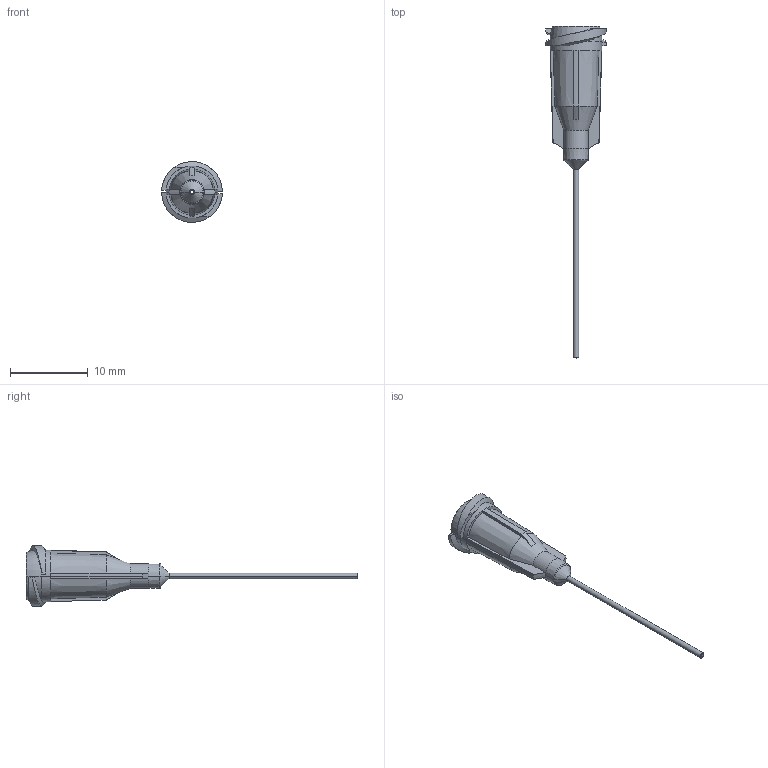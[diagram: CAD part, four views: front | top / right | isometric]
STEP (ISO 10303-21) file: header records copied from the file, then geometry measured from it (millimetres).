
FILE_DESCRIPTION (( 'STEP AP214' ), '1' );
FILE_NAME ('NORDSONEFD-7018262 TIP 22GA GP 016 X 10 BL.STEP', '2019-02-11T21:40:02', ( '' ), ( '' ), 'SwSTEP 2.0', 'SolidWorks 2019', '' );
FILE_SCHEMA (( 'AUTOMOTIVE_DESIGN' ));
Length unit declared in the file: inch
Products named in the file (1): NORDSONEFD-7018262 TIP 22GA GP 016 X 10 BL
Bounding box: 7.82 x 42.77 x 7.81 mm (x, y, z)
Volume: 270.9 mm3; surface area: 629.5 mm2
Topology: 1 solids, 1 shells, 98 faces, 228 edges, 136 vertices
Faces by surface type: plane 26, torus 22, cone 22, cylinder 16, bspline 12
Entity records: 3320 total; most frequent: CARTESIAN_POINT 997, DIRECTION 460, ORIENTED_EDGE 456, EDGE_CURVE 228, AXIS2_PLACEMENT_3D 201, VERTEX_POINT 136, CIRCLE 114, EDGE_LOOP 104
